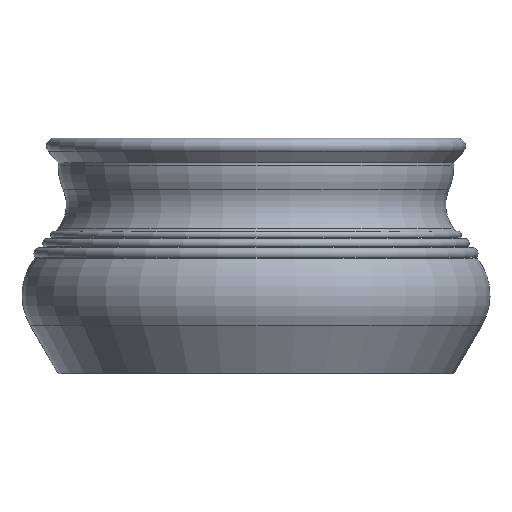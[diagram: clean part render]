
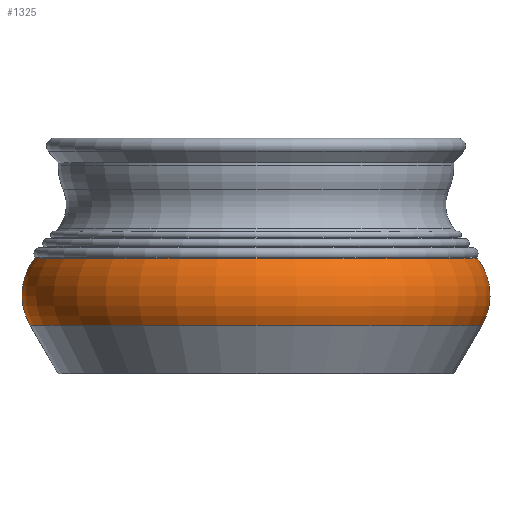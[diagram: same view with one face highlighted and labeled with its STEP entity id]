
A CAD part, front view. The second image highlights one B-rep face of the part: STEP entity #1325.
In plain terms, the highlighted toroidal (fillet/blend) face has major radius 110.901 mm and minor radius 38.099 mm.
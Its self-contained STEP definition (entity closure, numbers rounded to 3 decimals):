
#22=TOROIDAL_SURFACE('',#1505,110.901,38.099);
#166=FACE_OUTER_BOUND('',#284,.T.);
#284=EDGE_LOOP('',(#1208,#1209,#1210,#1211));
#526=CIRCLE('',#1467,143.883);
#549=CIRCLE('',#1506,140.889);
#550=CIRCLE('',#1507,38.099);
#653=VERTEX_POINT('',#2240);
#669=VERTEX_POINT('',#2303);
#818=EDGE_CURVE('',#653,#653,#526,.T.);
#849=EDGE_CURVE('',#669,#669,#549,.T.);
#850=EDGE_CURVE('',#669,#653,#550,.T.);
#1208=ORIENTED_EDGE('',*,*,#849,.F.);
#1209=ORIENTED_EDGE('',*,*,#850,.T.);
#1210=ORIENTED_EDGE('',*,*,#818,.T.);
#1211=ORIENTED_EDGE('',*,*,#850,.F.);
#1325=ADVANCED_FACE('',(#166),#22,.T.);
#1467=AXIS2_PLACEMENT_3D('',#2241,#1837,#1838);
#1505=AXIS2_PLACEMENT_3D('',#2302,#1921,#1922);
#1506=AXIS2_PLACEMENT_3D('',#2304,#1923,#1924);
#1507=AXIS2_PLACEMENT_3D('',#2305,#1925,#1926);
#1837=DIRECTION('center_axis',(0.,0.,1.));
#1838=DIRECTION('ref_axis',(1.,0.,0.));
#1921=DIRECTION('center_axis',(0.,0.,1.));
#1922=DIRECTION('ref_axis',(1.,0.,0.));
#1923=DIRECTION('center_axis',(0.,0.,1.));
#1924=DIRECTION('ref_axis',(1.,0.,0.));
#1925=DIRECTION('center_axis',(0.,-1.,0.));
#1926=DIRECTION('ref_axis',(-1.,0.,0.));
#2240=CARTESIAN_POINT('',(-143.883,0.,30.929));
#2241=CARTESIAN_POINT('Origin',(0.,0.,30.929));
#2302=CARTESIAN_POINT('Origin',(0.,0.,50.));
#2303=CARTESIAN_POINT('',(-140.889,0.,73.5));
#2304=CARTESIAN_POINT('Origin',(0.,0.,73.5));
#2305=CARTESIAN_POINT('Origin',(-110.901,0.,50.));
